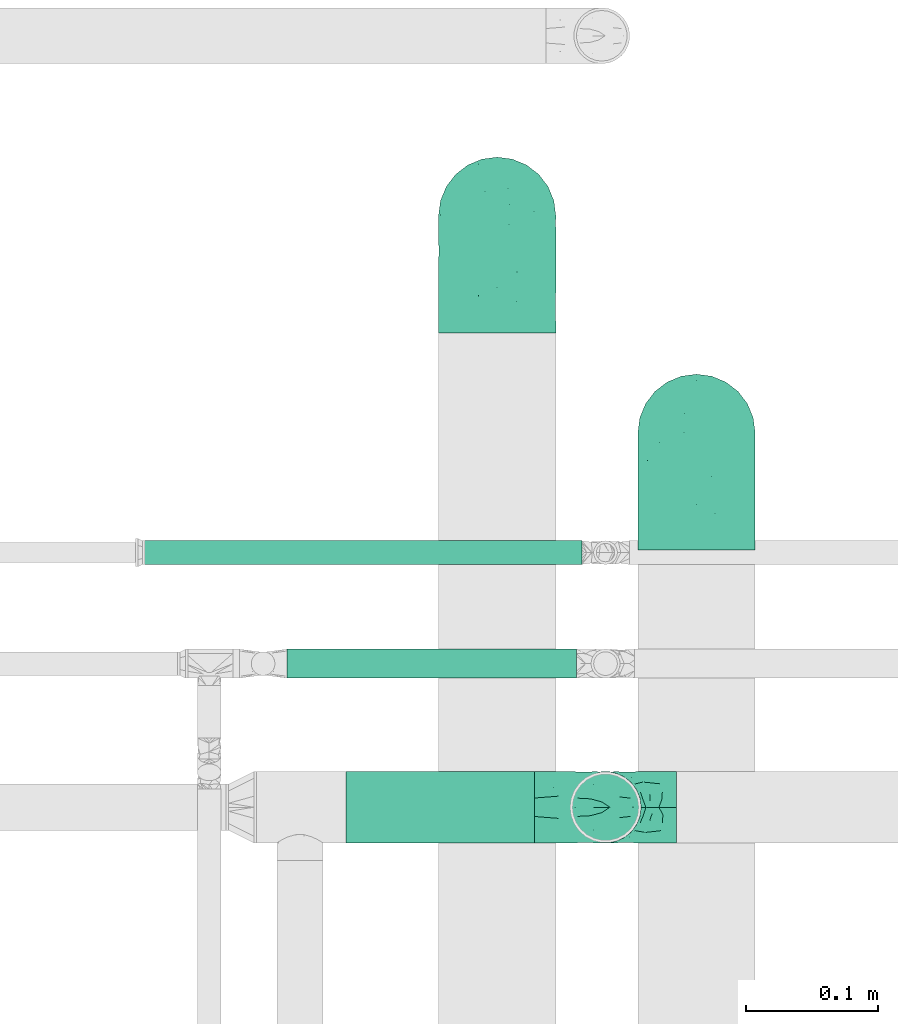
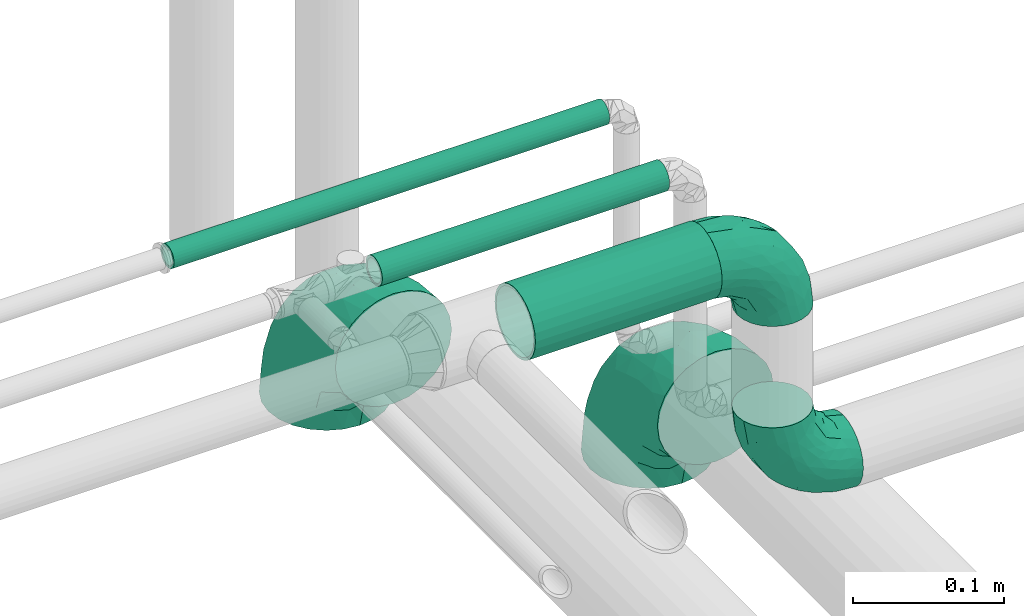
# One storey, part 63 of 156: 4 flow fittings, 3 flow segments.
"""IFC2X3 building model written with IfcOpenShell, lengths in millimetres."""

from ifc_helpers import new_model, entity, si_unit, converted_unit, derived_unit, direction, frame, origin_with_axes, origin_2d_with_axis, place, context, subcontext, project, spatial, hollow_circle, extrude, open_shell, surface_model, source, transform, mapped, type_object, element, save


model = new_model("IFC2X3")

# Units and contexts
model_context = context("Model", 3, precision=0.01, world=frame((0.0, 4.29681676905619e-09, 0.0)), true_north=direction((4.01073788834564e-13, 1.0)))
plan_context = context("Plan", 3, precision=0.01, world=frame((0.0, 4.29681676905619e-09, 0.0)), true_north=direction((4.01073788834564e-13, 1.0)))
body_context = subcontext(model_context, "Body", "Model", "MODEL_VIEW")
ifc_project = project(units=[converted_unit("PLANEANGLEUNIT", "DEGREE", entity("IfcPositiveLengthMeasure", 0.0174532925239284), si_unit("PLANEANGLEUNIT", "RADIAN"), dimensions=[0, 0, 0, 0, 0, 0, 0]), si_unit("AREAUNIT", "SQUARE_METRE"), si_unit("LENGTHUNIT", "METRE", prefix="MILLI"), si_unit("MASSUNIT", "GRAM", prefix="KILO"), si_unit("POWERUNIT", "WATT"), si_unit("PRESSUREUNIT", "PASCAL", prefix="KILO"), si_unit("FORCEUNIT", "NEWTON", prefix="KILO"), si_unit("ELECTRICVOLTAGEUNIT", "VOLT"), si_unit("ELECTRICCURRENTUNIT", "AMPERE"), si_unit("THERMODYNAMICTEMPERATUREUNIT", "DEGREE_CELSIUS"), si_unit("TIMEUNIT", "SECOND"), si_unit("VOLUMEUNIT", "CUBIC_METRE"), derived_unit("LINEARVELOCITYUNIT", [(si_unit("LENGTHUNIT", "METRE"), 1), (si_unit("TIMEUNIT", "SECOND"), -1)]), derived_unit("VOLUMETRICFLOWRATEUNIT", [(si_unit("VOLUMEUNIT", "CUBIC_METRE"), 1), (si_unit("TIMEUNIT", "SECOND"), -1)]), derived_unit("THERMALTRANSMITTANCEUNIT", [(si_unit("POWERUNIT", "WATT"), 1), (si_unit("THERMODYNAMICTEMPERATUREUNIT", "KELVIN"), -1), (si_unit("AREAUNIT", "SQUARE_METRE"), -1)]), derived_unit("SOUNDPRESSUREUNIT", [(si_unit("PRESSUREUNIT", "PASCAL"), 1)])], contexts=[model_context, plan_context])

# Site, building, storey
site_placement = place(None, frame((0.0, -4.29681676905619e-09, 0.0), z_axis=(0.0, 0.0, 1.0), x_axis=(1.0, 0.0, 0.0)))
site = spatial("IfcSite", under=ifc_project, at=site_placement, CompositionType="ELEMENT")
building_placement = place(site_placement, frame((0.0, 4.29681676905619e-09, 0.0), z_axis=(0.0, 0.0, 1.0), x_axis=(1.0, 0.0, 0.0)))
building = spatial("IfcBuilding", under=site, at=building_placement, Name="mc-building", CompositionType="ELEMENT")
storey_placement = place(building_placement, frame((0.0, 0.0, 205200.0), z_axis=(0.0, 0.0, 1.0), x_axis=(1.0, 0.0, 0.0)))
storey = spatial("IfcBuildingStorey", under=building, at=storey_placement, Name="Nivå D + 1,2 m", CompositionType="ELEMENT", Elevation=205200.0)

# Flow fittings
pipe_fitting_type_1 = type_object("IfcPipeFittingType", Name="magi_pipe_fe_elbow_short_001", PredefinedType="BEND")
shared_shape_1 = source(origin_with_axes(), body_context, "Body", "SurfaceModel", [
    surface_model("IfcShellBasedSurfaceModel", [(-89.0, 22.25, -38.53813), (-89.0, 11.51745, -42.9837), (-89.0, 0.0, -44.5), (-89.0, -31.46625, -31.46625), (-89.0, 42.9837, -11.51745), (-89.0, 38.53813, -22.25), (-89.0, 31.46625, -31.46625), (-89.0, -42.9837, 11.51745), (-89.0, -22.25, -38.53813), (-89.0, -11.51745, -42.9837), (-89.0, -38.53813, -22.25), (-89.0, -42.9837, -11.51745), (-89.0, -44.5, 0.0), (-89.0, 44.5, 0.0), (-89.0, 42.9837, 11.51745), (-89.0, 38.53813, 22.25), (-89.0, 11.51745, 42.9837), (-89.0, 22.25, 38.53813), (-89.0, 31.46625, 31.46625), (-89.0, -38.53813, 22.25), (-89.0, -31.46625, 31.46625), (-89.0, -22.25, 38.53813), (-89.0, -11.51745, 42.9837), (-89.0, 0.0, 44.5), (0.0, 89.0, -44.5), (-11.51745, 89.0, -42.9837), (-22.25, 89.0, -38.53813), (31.46625, 89.0, -31.46625), (-31.46625, 89.0, -31.46625), (-38.53813, 89.0, -22.25), (-42.9837, 89.0, -11.51745), (42.9837, 89.0, 11.51745), (11.51745, 89.0, -42.9837), (22.25, 89.0, -38.53813), (42.9837, 89.0, -11.51745), (38.53813, 89.0, -22.25), (44.5, 89.0, 0.0), (-42.9837, 89.0, 11.51745), (-44.5, 89.0, 0.0), (-11.51745, 89.0, 42.9837), (-38.53813, 89.0, 22.25), (-31.46625, 89.0, 31.46625), (-22.25, 89.0, 38.53813), (31.46625, 89.0, 31.46625), (38.53813, 89.0, 22.25), (22.25, 89.0, 38.53813), (0.0, 89.0, 44.5), (11.51745, 89.0, 42.9837), (-65.42428, -34.58934, 24.99387), (-60.92615, -39.17738, 14.07402), (-54.44766, -39.9511, 0.0), (-67.0033, -41.60408, 0.0), (20.966, 19.15286, 16.63614), (18.51857, 22.50533, 24.08448), (10.4657, 7.08355, 19.79374), (-67.98176, -5.89504, 43.73894), (-62.31445, 6.82125, 44.42415), (-11.98759, -17.38546, 13.71247), (-3.14091, -7.12033, 19.73763), (-17.39966, -17.28161, 21.15509), (-65.35987, -16.82173, 40.03398), (-34.36647, -10.72722, 37.00789), (-44.30391, -0.39934, 43.13177), (-58.22127, -25.63456, 33.14332), (-32.81793, -30.5148, 11.22345), (-38.34883, -33.28275, 0.0), (-22.25, -26.61439, 0.0), (-0.24515, 1.50726, 26.66121), (-15.28358, -10.61466, 27.57816), (-43.49903, 71.02442, 19.34125), (-37.1739, 69.28144, 29.23502), (-16.61105, 76.75956, 41.6822), (-6.09891, 66.56572, 44.3907), (-68.59708, 17.4527, 42.03662), (-11.61575, 29.80494, 43.69445), (-22.11114, 8.16361, 41.55403), (-4.54608, 24.04213, 40.89496), (-76.99086, 26.94844, 36.25967), (-15.46582, 43.76126, 44.42016), (-32.96179, 32.96179, 43.41874), (-26.49757, 19.44613, 44.27078), (-70.35301, 47.39906, 9.78402), (-71.04653, 43.49184, 19.33829), (-55.25263, 55.25263, 16.63447), (-69.56392, 37.0962, 29.20392), (25.63456, 58.22127, 33.14332), (-46.15102, 58.98863, 25.18654), (-7.94897, 7.94897, 36.38252), (33.28275, 38.34883, 0.0), (30.5148, 32.81793, 11.22345), (26.61439, 22.25, 0.0), (-32.2623, 57.51649, 37.40098), (-46.90759, 49.6971, 31.52137), (28.15678, 38.83054, 22.40746), (39.17738, 60.92615, 14.07402), (34.58934, 65.42428, 24.99387), (5.89504, 67.98176, 43.73894), (-38.83054, -28.15678, 22.40746), (41.60408, 67.0033, 0.0), (39.9511, 54.44766, 0.0), (-47.30867, 30.19441, 41.15989), (-48.89993, 19.06144, 43.70364), (-27.18633, 74.61927, 36.44428), (-46.8419, 71.78865, 9.54666), (-55.77112, 58.36681, 7.8317), (20.15578, 36.24405, 30.67717), (10.72722, 34.36646, 37.00789), (8.82969, 16.37545, 30.02978), (-50.46187, 66.75, 0.0), (-41.19565, 46.99267, 36.56569), (-61.27852, 30.20737, 37.47359), (16.82173, 65.35987, 40.03398), (-35.45256, 43.08265, 40.48995), (-25.39356, 46.06506, 42.77813), (-35.78831, -20.18199, 30.44157), (-19.24543, 60.29859, 42.38003), (-43.66621, 10.90441, 44.48101), (-57.15357, 47.81587, 24.81424), (0.39934, 44.30391, 43.13177), (4.50506, -4.03199, 11.81801), (-8.42562, -16.00657, 0.0), (5.39876, -5.39876, 0.0), (18.27854, 11.2026, 9.2952), (-66.75, 50.46187, 0.0), (16.00657, 8.42562, 0.0), (-65.62177, 38.32407, -29.64079), (-71.00581, 43.50509, -19.34374), (-36.35432, -11.23048, -37.33452), (-38.64129, -0.55509, -42.32471), (-17.87953, -0.74466, -36.46313), (-70.44691, 5.62674, -44.35517), (-42.59749, -33.40785, -14.96594), (-64.9187, -39.8376, -14.50738), (-55.9131, -33.00026, -24.10277), (-64.74306, 18.16527, -42.19806), (-49.02368, 10.51969, -44.49039), (-72.04232, 46.69365, -9.73728), (-43.29251, 50.55118, -33.51754), (-41.12712, 41.12712, -39.07257), (-54.39048, 37.59063, -35.35294), (-56.62372, 56.62371, -10.62473), (15.35741, 56.35485, -39.57726), (17.54325, 75.15597, -40.50008), (26.58599, 64.37989, -33.59817), (8.60891, -0.6174, -9.3365), (21.03491, 14.72807, -8.10637), (-18.16527, 64.74306, -42.19806), (-69.86124, 27.93071, -36.81239), (-74.91995, -35.42449, -25.85463), (-53.44587, 53.44587, -21.93397), (-38.32407, 65.62176, -29.64079), (-2.76838, -7.06072, -19.3197), (-13.25704, -8.90126, -27.75888), (3.56899, 7.13004, -28.01), (-64.37989, -26.58599, -33.59817), (24.07506, 30.03079, -22.26791), (33.00026, 55.9131, -24.10277), (31.23147, 35.6382, -13.05741), (-75.15597, -17.54325, -40.50008), (39.8376, 64.9187, -14.50738), (-48.56519, -20.31894, -34.9406), (-33.22603, -18.15266, -31.12982), (-25.41361, -19.94101, -24.51222), (15.24517, 10.92147, -16.71054), (-6.18621, -14.52322, -9.0433), (-27.62496, -28.53296, -8.93888), (-46.69365, 72.04231, -9.73728), (-56.35485, -15.35741, -39.57726), (-65.56275, -5.6109, -43.68636), (-5.62674, 70.44691, -44.35517), (1.87337, 20.9035, -37.11096), (-15.70957, 15.70957, -42.01996), (0.55509, 38.64129, -42.32471), (-43.50509, 71.00581, -19.34374), (5.6109, 65.56274, -43.68636), (35.42449, 74.91995, -25.85463), (-27.93071, 69.86124, -36.8124), (-25.96661, 24.06239, -44.47474), (-42.18599, 26.33091, -43.1755), (9.1973, 37.99016, -38.87512), (18.15266, 33.22603, -31.12982), (-54.10228, 28.63855, -40.10814), (-10.51969, 49.02368, -44.49039), (-26.53428, 43.30446, -42.96025), (-33.34568, 54.74553, -37.69591), (-22.46771, -22.93149, -16.78715)], [open_shell([[[0, 1, 2]], [[0, 2, 3]], [[4, 5, 6]], [[7, 6, 0]], [[0, 3, 7]], [[8, 3, 9]], [[3, 2, 9]], [[10, 11, 3]], [[7, 3, 11]], [[11, 12, 7]], [[13, 4, 6]], [[13, 7, 14]], [[15, 14, 16]], [[16, 17, 18]], [[15, 16, 18]], [[16, 14, 7]], [[19, 20, 7]], [[21, 7, 20]], [[22, 23, 21]], [[7, 21, 23]], [[23, 16, 7]], [[6, 7, 13]], [[24, 25, 26]], [[27, 24, 26]], [[28, 29, 30]], [[28, 30, 26]], [[31, 27, 26]], [[32, 27, 33]], [[32, 24, 27]], [[27, 34, 35]], [[34, 27, 31]], [[31, 36, 34]], [[30, 31, 26]], [[37, 31, 38]], [[39, 37, 40]], [[41, 42, 39]], [[41, 39, 40]], [[31, 37, 39]], [[31, 43, 44]], [[43, 31, 45]], [[45, 46, 47]], [[45, 31, 39]], [[39, 46, 45]], [[38, 31, 30]], [[48, 19, 49]], [[50, 49, 51]], [[52, 53, 54]], [[49, 19, 7]], [[7, 51, 49]], [[23, 55, 56]], [[20, 19, 48]], [[57, 58, 59]], [[60, 61, 62]], [[63, 21, 20]], [[63, 60, 21]], [[64, 65, 66]], [[58, 67, 68]], [[40, 69, 70]], [[39, 71, 72]], [[16, 73, 17]], [[74, 75, 76]], [[17, 77, 18]], [[22, 55, 23]], [[78, 79, 80]], [[81, 82, 83]], [[15, 84, 82]], [[85, 43, 45]], [[13, 14, 81]], [[14, 15, 82]], [[69, 86, 70]], [[84, 15, 18]], [[23, 56, 16]], [[68, 87, 61]], [[18, 77, 84]], [[88, 89, 90]], [[91, 70, 92]], [[93, 94, 95]], [[57, 59, 64]], [[40, 37, 69]], [[47, 46, 96]], [[44, 43, 95]], [[94, 31, 44]], [[49, 50, 65]], [[95, 94, 44]], [[48, 97, 63]], [[94, 98, 31]], [[94, 88, 99]], [[100, 73, 101]], [[70, 91, 102]], [[83, 103, 104]], [[105, 106, 107]], [[108, 103, 38]], [[100, 109, 110]], [[103, 83, 69]], [[85, 111, 106]], [[42, 41, 102]], [[112, 113, 91]], [[40, 70, 41]], [[21, 60, 22]], [[114, 61, 63]], [[111, 45, 47]], [[42, 71, 39]], [[46, 39, 72]], [[115, 78, 72]], [[101, 116, 80]], [[111, 85, 45]], [[110, 92, 84]], [[73, 16, 56]], [[82, 117, 83]], [[115, 113, 78]], [[96, 72, 118]], [[61, 60, 63]], [[55, 60, 62]], [[114, 63, 97]], [[61, 87, 75]], [[96, 111, 47]], [[118, 76, 106]], [[118, 106, 111]], [[106, 87, 107]], [[101, 73, 56]], [[77, 73, 110]], [[97, 48, 49]], [[63, 20, 48]], [[43, 85, 95]], [[93, 95, 85]], [[119, 120, 121]], [[57, 119, 58]], [[57, 64, 66]], [[90, 89, 122]], [[119, 121, 122]], [[106, 105, 85]], [[103, 69, 37]], [[83, 117, 86]], [[100, 112, 109]], [[115, 71, 102]], [[117, 84, 92]], [[83, 104, 81]], [[101, 80, 79]], [[118, 72, 78]], [[75, 80, 62]], [[78, 80, 74]], [[72, 96, 46]], [[111, 96, 118]], [[60, 55, 22]], [[56, 55, 62]], [[101, 56, 116]], [[100, 101, 79]], [[112, 100, 79]], [[73, 100, 110]], [[113, 112, 79]], [[109, 112, 91]], [[38, 103, 37]], [[103, 108, 104]], [[108, 123, 104]], [[104, 123, 81]], [[13, 81, 123]], [[14, 82, 81]], [[56, 62, 116]], [[62, 80, 116]], [[78, 113, 79]], [[91, 113, 115]], [[67, 87, 68]], [[53, 107, 54]], [[84, 117, 82]], [[86, 117, 92]], [[70, 86, 92]], [[83, 86, 69]], [[53, 105, 107]], [[93, 85, 105]], [[70, 102, 41]], [[115, 102, 91]], [[91, 92, 109]], [[110, 109, 92]], [[61, 75, 62]], [[76, 75, 87]], [[106, 76, 87]], [[74, 76, 118]], [[78, 74, 118]], [[75, 74, 80]], [[7, 12, 51]], [[98, 94, 99]], [[98, 36, 31]], [[65, 64, 49]], [[49, 64, 97]], [[89, 94, 93]], [[94, 89, 88]], [[93, 53, 52]], [[119, 122, 54]], [[122, 121, 124]], [[58, 119, 54]], [[57, 120, 119]], [[67, 54, 107]], [[59, 58, 68]], [[114, 59, 68]], [[64, 59, 97]], [[54, 67, 58]], [[87, 67, 107]], [[73, 77, 17]], [[84, 77, 110]], [[102, 71, 42]], [[72, 71, 115]], [[59, 114, 97]], [[68, 61, 114]], [[57, 66, 120]], [[54, 122, 52]], [[105, 53, 93]], [[122, 89, 52]], [[93, 52, 89]], [[124, 90, 122]], [[125, 5, 126]], [[127, 128, 129]], [[2, 1, 130]], [[131, 132, 133]], [[130, 134, 135]], [[134, 1, 0]], [[123, 136, 13]], [[137, 138, 139]], [[126, 136, 140]], [[141, 142, 143]], [[125, 6, 5]], [[144, 145, 124]], [[25, 146, 26]], [[134, 0, 147]], [[132, 10, 148]], [[149, 150, 137]], [[132, 51, 11]], [[151, 152, 153]], [[154, 3, 8]], [[155, 156, 157]], [[158, 154, 8]], [[159, 35, 34]], [[10, 132, 11]], [[3, 148, 10]], [[133, 154, 160]], [[158, 8, 9]], [[161, 162, 133]], [[153, 155, 163]], [[123, 108, 140]], [[164, 66, 165]], [[38, 30, 166]], [[167, 168, 128]], [[5, 4, 126]], [[25, 169, 146]], [[170, 171, 172]], [[173, 150, 149]], [[25, 24, 169]], [[33, 27, 143]], [[174, 32, 142]], [[29, 28, 150]], [[175, 27, 35]], [[26, 176, 28]], [[177, 135, 178]], [[32, 33, 142]], [[159, 157, 156]], [[139, 147, 125]], [[170, 172, 179]], [[30, 29, 173]], [[153, 170, 180]], [[168, 167, 158]], [[143, 180, 141]], [[168, 9, 2]], [[159, 98, 99]], [[147, 181, 134]], [[0, 6, 147]], [[159, 156, 175]], [[176, 26, 146]], [[182, 174, 172]], [[32, 174, 24]], [[135, 134, 178]], [[138, 183, 178]], [[173, 140, 166]], [[138, 137, 184]], [[134, 181, 178]], [[185, 151, 164]], [[173, 166, 30]], [[140, 149, 126]], [[175, 143, 27]], [[180, 143, 156]], [[172, 174, 141]], [[169, 174, 182]], [[179, 180, 170]], [[172, 171, 177]], [[159, 34, 98]], [[157, 99, 88]], [[145, 157, 90]], [[155, 157, 163]], [[167, 127, 160]], [[148, 154, 133]], [[130, 168, 2]], [[135, 177, 128]], [[135, 128, 168]], [[128, 171, 129]], [[133, 162, 131]], [[34, 36, 98]], [[6, 125, 147]], [[181, 139, 138]], [[146, 183, 184]], [[150, 28, 176]], [[126, 4, 136]], [[125, 126, 149]], [[150, 173, 29]], [[140, 173, 149]], [[180, 155, 153]], [[129, 171, 170]], [[151, 153, 163]], [[153, 152, 129]], [[153, 129, 170]], [[129, 161, 127]], [[134, 130, 1]], [[168, 130, 135]], [[174, 169, 24]], [[146, 169, 182]], [[184, 183, 138]], [[177, 171, 128]], [[183, 177, 178]], [[172, 177, 182]], [[146, 182, 183]], [[177, 183, 182]], [[185, 165, 131]], [[65, 131, 165]], [[164, 144, 121]], [[152, 162, 161]], [[144, 151, 163]], [[164, 120, 66]], [[162, 151, 185]], [[129, 152, 161]], [[13, 136, 4]], [[123, 140, 136]], [[140, 108, 166]], [[38, 166, 108]], [[151, 144, 164]], [[145, 144, 163]], [[157, 145, 163]], [[124, 121, 144]], [[145, 90, 124]], [[164, 165, 185]], [[65, 50, 131]], [[165, 66, 65]], [[50, 132, 131]], [[138, 178, 181]], [[147, 139, 181]], [[125, 149, 137]], [[137, 139, 125]], [[184, 150, 176]], [[150, 184, 137]], [[184, 176, 146]], [[151, 162, 152]], [[162, 185, 131]], [[51, 132, 50]], [[51, 12, 11]], [[143, 142, 33]], [[174, 142, 141]], [[159, 175, 35]], [[143, 175, 156]], [[168, 158, 9]], [[154, 158, 167]], [[154, 148, 3]], [[132, 148, 133]], [[99, 157, 159]], [[88, 90, 157]], [[156, 155, 180]], [[172, 141, 179]], [[180, 179, 141]], [[160, 127, 161]], [[128, 127, 167]], [[133, 160, 161]], [[167, 160, 154]], [[164, 121, 120]]])]),
])
for number, where, z_axis, x_axis, name in (
    (1, (326883.94863, 463733.2125, 4038.0), (-1.0, 0.0, 0.0), (0.0, 1.0, 0.0), "magi_pipe_fe_elbow_short_001"),
    (2, (327035.15172, 463568.55, 4038.0), (1.0, 0.0, 0.0), (0.0, 0.0, 1.0), "magi_pipe_fe_elbow_short_001"),
):
    element("IfcFlowFitting", number, at=place(storey_placement, frame(where, z_axis=z_axis, x_axis=x_axis)), inside=storey, type_object=pipe_fitting_type_1, Name=name, context=body_context, shape_type="MappedRepresentation", body=[
        mapped(shared_shape_1, transform((0.0, 0.0, 0.0), scale=1.0)),
    ])
pipe_fitting_type_2 = type_object("IfcPipeFittingType", Name="magi_pipe_elbow_short_001", PredefinedType="BEND")
shared_shape_2 = source(origin_with_axes(), body_context, "Body", "SurfaceModel", [
    surface_model("IfcShellBasedSurfaceModel", [(-54.0, 0.0, -27.0), (-54.0, -6.98811, -26.08), (-54.0, 6.98811, -26.08), (-54.0, -13.5, -23.38269), (-54.0, -19.09188, -19.09188), (-54.0, -23.38269, -13.5), (-54.0, -26.08, -6.98811), (-54.0, -27.0, 0.0), (-54.0, 26.08, -6.98811), (-54.0, 23.38269, 13.5), (-54.0, 26.08, 6.98811), (-54.0, 19.09188, 19.09188), (-54.0, 6.98811, 26.08), (-54.0, 13.5, 23.38269), (-54.0, -19.09188, 19.09188), (-54.0, -13.5, 23.38269), (-54.0, -23.38269, 13.5), (-54.0, -26.08, 6.98811), (-54.0, -6.98811, 26.08), (-54.0, 0.0, 27.0), (-6.98811, 54.0, -26.08), (6.98811, 54.0, -26.08), (0.0, 54.0, -27.0), (19.09188, 54.0, -19.09188), (13.5, 54.0, -23.38269), (27.0, 54.0, 0.0), (26.08, 54.0, -6.98811), (23.38269, 54.0, -13.5), (23.38269, 54.0, 13.5), (-26.08, 54.0, 6.98811), (-23.38269, 54.0, 13.5), (-26.08, 54.0, -6.98811), (-19.09188, 54.0, 19.09188), (-13.5, 54.0, 23.38269), (-6.98811, 54.0, 26.08), (13.5, 54.0, 23.38269), (19.09188, 54.0, 19.09188), (26.08, 54.0, 6.98811), (6.98811, 54.0, 26.08), (0.0, 54.0, 27.0), (-39.61154, -20.97605, 15.15708), (-35.45606, -15.57721, 20.11923), (-38.50132, -23.91712, 0.0), (-23.86759, -17.19462, 13.62733), (-35.88435, -23.5659, 8.42076), (23.5659, 35.88435, 8.42076), (19.05193, 21.15087, 6.92152), (20.83424, 23.00264, 0.0), (-26.39267, 43.09347, 11.73514), (-22.55495, 42.03593, 17.7381), (-39.68533, -10.20988, 24.2917), (-41.24736, -3.57676, 26.53823), (-37.80877, 4.13874, 26.95398), (-9.8635, -12.05495, 0.0), (-21.15087, -19.05193, 6.92152), (-23.00264, -20.83424, 0.0), (-20.86046, -6.553, 22.43106), (-26.88103, -0.2423, 26.16984), (-2.32359, -4.56424, 12.16558), (-0.45254, 0.55713, 16.12825), (-9.17815, -6.46576, 16.63487), (-42.20732, 22.50781, 17.71924), (-9.38376, 26.55177, 26.95156), (-19.99929, 19.99929, 26.34396), (-16.07717, 11.79878, 26.86092), (-46.71355, 16.35074, 22.00025), (-10.07861, 46.57322, 25.29032), (-3.70046, 40.38819, 26.93368), (-43.10688, 26.3883, 11.73335), (-54.0, 27.0, 0.0), (-42.68609, 28.75898, 5.93637), (-33.52407, 33.52407, 10.09282), (-41.6207, 10.58928, 25.50537), (-7.04776, 18.08389, 26.51124), (-13.41575, 4.9532, 25.21256), (-2.7583, 14.58736, 24.81267), (-4.82297, 4.82297, 22.07479), (15.57721, 35.45606, 20.11923), (17.19462, 23.86759, 13.62733), (20.97605, 39.61154, 15.15708), (-28.70414, 18.3202, 24.97342), (-29.66962, 11.56537, 26.51682), (3.57676, 41.24736, 26.53823), (10.20988, 39.68533, 24.2917), (6.553, 20.86046, 22.43106), (23.91712, 38.50132, 0.0), (-26.4941, 6.61616, 26.98848), (-24.99511, 28.51241, 22.18592), (-37.18023, 18.32807, 22.73678), (-28.42093, 43.55716, 5.79236), (-33.83866, 35.41357, 4.75182), (12.32393, 21.86915, 18.4669), (-30.61731, 40.5, 0.0), (-27.0, 54.0, 0.0), (-11.677, 36.58566, 25.71372), (-15.40733, 27.94959, 25.95527), (-19.57488, 34.89765, 22.69273), (-21.51054, 26.14004, 24.56694), (-16.49507, 45.27461, 22.11226), (-21.86915, -12.32393, 18.4669), (-28.00174, 35.79085, 15.28172), (-28.46079, 30.1533, 19.12532), (-34.67745, 29.01187, 15.05583), (0.2423, 26.88103, 26.16984), (6.14836, 9.37801, 17.10224), (-12.81493, -12.05275, 12.67362), (1.60314, -3.50694, 7.30779), (8.1991, 4.80894, 9.42925), (8.37417, 2.80273, 4.04625), (13.9067, 11.26247, 6.37746), (13.55623, 14.00643, 11.33194), (-40.5, 30.61731, 0.0), (-7.27702, -10.73712, 7.83929), (3.27565, -3.27565, 0.0), (12.05495, 9.8635, 0.0), (-21.86915, -12.32393, -18.4669), (-35.45606, -15.57721, -20.11923), (-20.86046, -6.553, -22.43106), (-23.86759, -17.19462, -13.62733), (-54.0, 23.38269, -13.5), (-42.03593, 22.55495, -17.7381), (-54.0, 19.09188, -19.09188), (-45.27461, 16.49507, -22.11226), (-54.0, 13.5, -23.38269), (-43.55716, 28.42093, -5.79236), (-35.88435, -23.5659, -8.42076), (-33.52407, 33.52407, -10.09282), (-43.09347, 26.39267, -11.73514), (-21.15087, -19.05193, -6.92152), (-26.14004, 21.51054, -24.56694), (-27.94959, 15.40733, -25.95527), (-34.89765, 19.57488, -22.69273), (-19.09188, 54.0, -19.09188), (-16.35074, 46.71355, -22.00025), (-22.50781, 42.20732, -17.71924), (10.20988, 39.68533, -24.2917), (6.553, 20.86046, -22.43106), (0.2423, 26.88103, -26.16984), (-46.57322, 10.07861, -25.29032), (-39.61154, -20.97605, -15.15708), (-39.68533, -10.20988, -24.2917), (-18.3202, 28.70414, -24.97342), (-10.58928, 41.6207, -25.50537), (-11.56537, 29.66962, -26.51682), (-41.24736, -3.57676, -26.53823), (-26.55177, 9.38376, -26.95156), (-19.99929, 19.99929, -26.34396), (-11.79878, 16.07717, -26.86092), (-40.38819, 3.70046, -26.93368), (-28.75898, 42.68609, -5.93637), (-26.3883, 43.10688, -11.73334), (-36.58566, 11.677, -25.71372), (-35.41357, 33.83866, -4.75182), (-6.61616, 26.4941, -26.98848), (-28.51241, 24.99511, -22.18593), (-18.32807, 37.18023, -22.73678), (-23.38269, 54.0, -13.5), (3.57676, 41.24736, -26.53823), (-4.13874, 37.80876, -26.95398), (-13.5, 54.0, -23.38269), (20.97605, 39.61154, -15.15708), (15.57721, 35.45606, -20.11923), (8.37418, 2.80274, -4.04624), (13.9067, 11.26247, -6.37746), (-18.08389, 7.04775, -26.51124), (-4.9532, 13.41575, -25.21256), (-14.58736, 2.75829, -24.81267), (1.60314, -3.50694, -7.30779), (-7.27702, -10.73712, -7.83929), (-2.32359, -4.56424, -12.16557), (17.19462, 23.86759, -13.62733), (23.5659, 35.88435, -8.42076), (19.05193, 21.15087, -6.92152), (-35.79085, 28.00174, -15.28172), (12.32393, 21.86915, -18.4669), (13.55623, 14.00642, -11.33194), (6.14836, 9.37801, -17.10224), (-30.1533, 28.46079, -19.12532), (-29.01188, 34.67745, -15.05583), (-26.88103, -0.2423, -26.16984), (-4.82297, 4.82297, -22.07479), (-9.17815, -6.46576, -16.63487), (-12.81493, -12.05275, -12.67362), (-0.45254, 0.55713, -16.12825), (8.1991, 4.80894, -9.42925)], [open_shell([[[0, 1, 2]], [[3, 4, 1]], [[5, 6, 4]], [[7, 4, 6]], [[8, 9, 10]], [[8, 11, 9]], [[12, 13, 11]], [[14, 15, 16]], [[16, 7, 17]], [[15, 18, 16]], [[18, 12, 16]], [[12, 18, 19]], [[20, 21, 22]], [[21, 23, 24]], [[23, 21, 25]], [[23, 26, 27]], [[26, 23, 25]], [[25, 21, 28]], [[29, 30, 31]], [[32, 33, 34]], [[28, 35, 36]], [[37, 25, 28]], [[28, 38, 35]], [[28, 34, 38]], [[39, 38, 34]], [[14, 40, 41]], [[17, 7, 42]], [[43, 40, 44]], [[45, 46, 47]], [[40, 14, 16]], [[17, 44, 16]], [[30, 48, 49]], [[41, 15, 14]], [[41, 50, 15]], [[19, 51, 52]], [[53, 54, 55]], [[50, 56, 57]], [[58, 59, 60]], [[9, 11, 61]], [[62, 63, 64]], [[13, 65, 11]], [[18, 51, 19]], [[34, 66, 67]], [[19, 52, 12]], [[9, 61, 68]], [[11, 65, 61]], [[69, 10, 70]], [[10, 9, 68]], [[70, 68, 71]], [[12, 72, 13]], [[73, 74, 75]], [[60, 76, 56]], [[77, 36, 35]], [[78, 79, 77]], [[80, 72, 81]], [[15, 50, 18]], [[39, 82, 38]], [[45, 37, 28]], [[39, 34, 67]], [[77, 83, 84]], [[28, 79, 45]], [[85, 37, 45]], [[79, 28, 36]], [[83, 35, 38]], [[45, 47, 85]], [[81, 86, 64]], [[46, 45, 78]], [[80, 87, 88]], [[71, 89, 90]], [[91, 77, 84]], [[92, 89, 93]], [[72, 12, 52]], [[89, 71, 48]], [[54, 44, 55]], [[49, 32, 30]], [[94, 62, 67]], [[95, 96, 97]], [[17, 42, 44]], [[98, 33, 32]], [[66, 34, 33]], [[49, 96, 98]], [[99, 56, 41]], [[83, 77, 35]], [[30, 29, 48]], [[48, 100, 49]], [[96, 49, 101]], [[88, 101, 61]], [[68, 102, 71]], [[94, 95, 62]], [[82, 67, 103]], [[56, 50, 41]], [[55, 44, 42]], [[51, 50, 57]], [[99, 41, 43]], [[56, 76, 74]], [[82, 83, 38]], [[25, 37, 85]], [[103, 75, 84]], [[103, 84, 83]], [[84, 76, 104]], [[105, 60, 99]], [[58, 60, 105]], [[54, 43, 44]], [[58, 106, 107]], [[108, 109, 107]], [[91, 78, 77]], [[44, 40, 16]], [[41, 40, 43]], [[77, 79, 36]], [[45, 79, 78]], [[81, 72, 52]], [[65, 72, 88]], [[89, 48, 29]], [[71, 102, 100]], [[80, 97, 87]], [[94, 66, 98]], [[102, 61, 101]], [[71, 90, 70]], [[81, 64, 63]], [[103, 67, 62]], [[74, 64, 57]], [[62, 64, 73]], [[67, 82, 39]], [[83, 82, 103]], [[50, 51, 18]], [[52, 51, 57]], [[59, 76, 60]], [[104, 107, 110]], [[81, 52, 86]], [[80, 81, 63]], [[97, 80, 63]], [[72, 80, 88]], [[95, 97, 63]], [[87, 97, 96]], [[93, 89, 29]], [[89, 92, 90]], [[92, 111, 90]], [[90, 111, 70]], [[69, 70, 111]], [[10, 68, 70]], [[52, 57, 86]], [[57, 64, 86]], [[62, 95, 63]], [[96, 95, 94]], [[61, 102, 68]], [[100, 102, 101]], [[49, 100, 101]], [[71, 100, 48]], [[49, 98, 32]], [[94, 98, 96]], [[96, 101, 87]], [[88, 87, 101]], [[56, 74, 57]], [[75, 74, 76]], [[84, 75, 76]], [[73, 75, 103]], [[62, 73, 103]], [[74, 73, 64]], [[72, 65, 13]], [[61, 65, 88]], [[98, 66, 33]], [[67, 66, 94]], [[54, 53, 112]], [[105, 54, 112]], [[107, 109, 110]], [[113, 112, 53]], [[105, 99, 43]], [[107, 106, 108]], [[114, 47, 46]], [[60, 56, 99]], [[84, 104, 91]], [[110, 91, 104]], [[54, 105, 43]], [[58, 105, 112]], [[106, 58, 112]], [[59, 107, 104]], [[112, 113, 106]], [[108, 106, 113]], [[113, 114, 108]], [[109, 114, 46]], [[114, 109, 108]], [[110, 46, 78]], [[46, 110, 109]], [[110, 78, 91]], [[107, 59, 58]], [[76, 59, 104]], [[115, 116, 117]], [[116, 115, 118]], [[119, 120, 121]], [[121, 122, 123]], [[111, 124, 69]], [[42, 6, 125]], [[124, 126, 127]], [[125, 128, 55]], [[129, 130, 131]], [[132, 133, 134]], [[135, 136, 137]], [[123, 138, 2]], [[125, 5, 139]], [[140, 3, 1]], [[125, 55, 42]], [[119, 8, 127]], [[5, 4, 139]], [[141, 142, 143]], [[144, 1, 0]], [[145, 146, 147]], [[5, 125, 6]], [[118, 139, 116]], [[148, 0, 2]], [[149, 150, 126]], [[120, 131, 122]], [[151, 145, 148]], [[124, 152, 126]], [[143, 153, 147]], [[93, 31, 149]], [[141, 154, 155]], [[150, 31, 156]], [[22, 157, 158]], [[116, 4, 3]], [[132, 159, 133]], [[142, 159, 20]], [[23, 160, 161]], [[22, 21, 157]], [[114, 162, 163]], [[127, 120, 119]], [[132, 134, 156]], [[2, 138, 148]], [[24, 161, 135]], [[140, 116, 3]], [[22, 158, 20]], [[164, 165, 166]], [[167, 168, 169]], [[27, 160, 23]], [[161, 24, 23]], [[170, 160, 171]], [[128, 125, 118]], [[25, 85, 26]], [[26, 85, 171]], [[172, 171, 47]], [[26, 171, 27]], [[142, 20, 158]], [[127, 173, 120]], [[174, 175, 176]], [[134, 150, 156]], [[24, 135, 21]], [[116, 140, 117]], [[131, 120, 177]], [[155, 177, 134]], [[150, 178, 126]], [[151, 130, 145]], [[144, 148, 179]], [[144, 140, 1]], [[7, 6, 42]], [[179, 166, 117]], [[179, 117, 140]], [[117, 180, 181]], [[136, 135, 161]], [[47, 171, 85]], [[157, 135, 137]], [[174, 161, 170]], [[136, 180, 165]], [[180, 136, 176]], [[118, 115, 182]], [[176, 183, 180]], [[53, 128, 168]], [[169, 168, 182]], [[172, 170, 171]], [[116, 139, 4]], [[125, 139, 118]], [[171, 160, 27]], [[161, 160, 170]], [[143, 142, 158]], [[133, 142, 155]], [[124, 127, 8]], [[126, 178, 173]], [[141, 129, 154]], [[151, 138, 122]], [[178, 134, 177]], [[126, 152, 149]], [[143, 147, 146]], [[179, 148, 145]], [[165, 147, 137]], [[145, 147, 164]], [[148, 144, 0]], [[140, 144, 179]], [[135, 157, 21]], [[158, 157, 137]], [[174, 136, 161]], [[184, 169, 183]], [[143, 158, 153]], [[141, 143, 146]], [[129, 141, 146]], [[142, 141, 155]], [[130, 129, 146]], [[154, 129, 131]], [[69, 124, 8]], [[124, 111, 152]], [[111, 92, 152]], [[152, 92, 149]], [[93, 149, 92]], [[31, 150, 149]], [[158, 137, 153]], [[137, 147, 153]], [[145, 130, 146]], [[131, 130, 151]], [[134, 178, 150]], [[173, 178, 177]], [[120, 173, 177]], [[126, 173, 127]], [[120, 122, 121]], [[151, 122, 131]], [[131, 177, 154]], [[155, 154, 177]], [[136, 165, 137]], [[166, 165, 180]], [[117, 166, 180]], [[164, 166, 179]], [[145, 164, 179]], [[165, 164, 147]], [[142, 133, 159]], [[134, 133, 155]], [[122, 138, 123]], [[148, 138, 151]], [[182, 128, 118]], [[168, 113, 53]], [[113, 167, 162]], [[55, 128, 53]], [[172, 163, 175]], [[172, 47, 114]], [[117, 181, 115]], [[182, 115, 181]], [[175, 174, 170]], [[176, 136, 174]], [[169, 182, 181]], [[128, 182, 168]], [[183, 169, 181]], [[167, 169, 184]], [[162, 167, 184]], [[113, 168, 167]], [[163, 162, 184]], [[114, 113, 162]], [[175, 163, 184]], [[114, 163, 172]], [[176, 175, 184]], [[172, 175, 170]], [[180, 183, 181]], [[184, 183, 176]], [[2, 1, 123]], [[8, 119, 121]], [[121, 123, 7]], [[121, 7, 8]], [[4, 123, 1]], [[4, 7, 123]], [[7, 11, 8]], [[11, 7, 12]], [[16, 12, 7]], [[69, 8, 10]], [[31, 20, 159]], [[156, 31, 159]], [[156, 159, 132]], [[20, 28, 21]], [[20, 31, 32]], [[30, 32, 31]], [[34, 20, 32]], [[34, 28, 20]], [[31, 93, 29]]])]),
])
for number, where, z_axis, x_axis, name in (
    (3, (326966.13637, 463284.5375, 4128.0), (0.0, -1.0, 0.0), (0.0, 0.0, -1.0), "magi_pipe_elbow_short_001"),
    (4, (326966.13637, 463284.5375, 4318.0), (0.0, -1.0, 0.0), (0.0, 0.0, 1.0), "magi_pipe_elbow_short_001"),
):
    element("IfcFlowFitting", number, at=place(storey_placement, frame(where, z_axis=z_axis, x_axis=x_axis)), inside=storey, type_object=pipe_fitting_type_2, Name=name, context=body_context, shape_type="MappedRepresentation", body=[
        mapped(shared_shape_2, transform((0.0, 0.0, 0.0), scale=1.0)),
    ])

# Flow segments
pipe_segment_type = type_object("IfcPipeSegmentType", Name="Kobberrør", PredefinedType="RIGIDSEGMENT")
shared_shape_3 = source(origin_with_axes(), body_context, "Body", "SweptSolid", [
    extrude(hollow_circle(Radius=27.0, WallThickness=2.0, at=origin_2d_with_axis()), frame((0.0, 0.0, 0.0), z_axis=(1.0, 0.0, 0.0), x_axis=(0.0, 1.0, 0.0)), (0.0, 0.0, 1.0), 142.8),
])
flow_segment_1_placement = place(storey_placement, frame((326769.3046, 463284.5375, 4318.0), z_axis=(0.0, 0.0, 1.0), x_axis=(1.0, 0.0, 0.0)))
element("IfcFlowSegment", 5, at=flow_segment_1_placement, inside=storey, type_object=pipe_segment_type, Name="Kobberrør", context=body_context, shape_type="MappedRepresentation", body=[
    mapped(shared_shape_3, transform((0.0, 0.0, 0.0), scale=1.0)),
])
shared_shape_4 = source(origin_with_axes(), body_context, "Body", "SweptSolid", [
    extrude(hollow_circle(Radius=11.0, WallThickness=2.0, at=origin_2d_with_axis()), frame((0.0, 0.0, 0.0), z_axis=(1.0, 0.0, 0.0), x_axis=(0.0, 1.0, 0.0)), (0.0, 0.0, 1.0), 219.7),
])
flow_segment_2_placement = place(storey_placement, frame((326724.39816, 463393.4875, 4309.0), z_axis=(0.0, 0.0, 1.0), x_axis=(1.0, 0.0, 0.0)))
element("IfcFlowSegment", 6, at=flow_segment_2_placement, inside=storey, type_object=pipe_segment_type, Name="Kobberrør", context=body_context, shape_type="MappedRepresentation", body=[
    mapped(shared_shape_4, transform((0.0, 0.0, 0.0), scale=1.0)),
])
shared_shape_5 = source(origin_with_axes(), body_context, "Body", "SweptSolid", [
    extrude(hollow_circle(Radius=9.0, WallThickness=2.0, at=origin_2d_with_axis()), frame((0.0, 0.0, 0.0), z_axis=(1.0, 0.0, 0.0), x_axis=(0.0, 1.0, 0.0)), (0.0, 0.0, 1.0), 333.2),
])
flow_segment_3_placement = place(storey_placement, frame((326614.91226, 463477.7375, 4308.0), z_axis=(0.0, 0.0, 1.0), x_axis=(1.0, 0.0, 0.0)))
element("IfcFlowSegment", 7, at=flow_segment_3_placement, inside=storey, type_object=pipe_segment_type, Name="Kobberrør", context=body_context, shape_type="MappedRepresentation", body=[
    mapped(shared_shape_5, transform((0.0, 0.0, 0.0), scale=1.0)),
])

save(model, "model.ifc")
